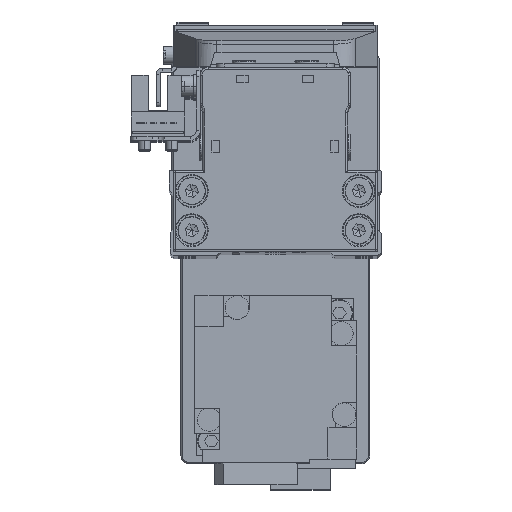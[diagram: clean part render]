
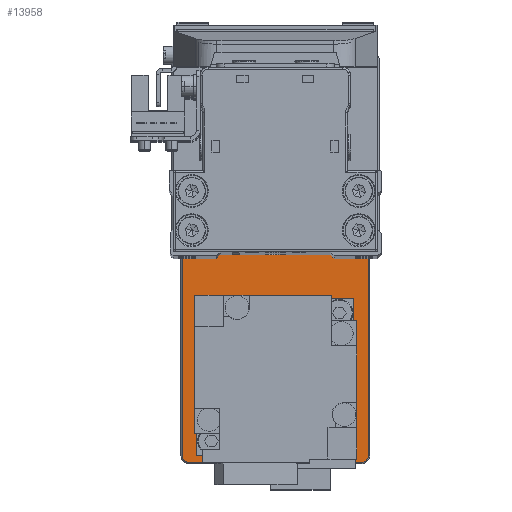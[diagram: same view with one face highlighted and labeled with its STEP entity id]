
A CAD part, top view. The second image highlights one B-rep face of the part: STEP entity #13958.
In plain terms, the highlighted planar face has unit normal (0, 0, 1).
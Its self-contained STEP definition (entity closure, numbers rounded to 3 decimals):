
#154 = DIRECTION ( 'NONE',  ( 0., -1., 0. ) ) ;
#607 = ORIENTED_EDGE ( 'NONE', *, *, #14511, .T. ) ;
#609 = CARTESIAN_POINT ( 'NONE',  ( 30., 0., 5. ) ) ;
#1818 = ORIENTED_EDGE ( 'NONE', *, *, #27113, .T. ) ;
#1832 = VERTEX_POINT ( 'NONE', #9998 ) ;
#2010 = AXIS2_PLACEMENT_3D ( 'NONE', #17793, #30084, #2467 ) ;
#2116 = LINE ( 'NONE', #14419, #25076 ) ;
#2118 = ORIENTED_EDGE ( 'NONE', *, *, #6372, .T. ) ;
#2416 = DIRECTION ( 'NONE',  ( 1., 0., 0. ) ) ;
#2467 = DIRECTION ( 'NONE',  ( 1., 0., 0. ) ) ;
#2521 = DIRECTION ( 'NONE',  ( 0., 0., 1. ) ) ;
#2528 = DIRECTION ( 'NONE',  ( 0., 0., 1. ) ) ;
#3517 = LINE ( 'NONE', #15827, #19399 ) ;
#3628 = CARTESIAN_POINT ( 'NONE',  ( -51.7, 22., 5. ) ) ;
#4135 = LINE ( 'NONE', #16442, #25892 ) ;
#4848 = AXIS2_PLACEMENT_3D ( 'NONE', #609, #12916, #25230 ) ;
#4980 = ORIENTED_EDGE ( 'NONE', *, *, #9841, .T. ) ;
#5489 = PLANE ( 'NONE',  #2010 ) ;
#6024 = VERTEX_POINT ( 'NONE', #20309 ) ;
#6372 = EDGE_CURVE ( 'NONE', #29061, #23745, #2116, .T. ) ;
#8515 = FACE_BOUND ( 'NONE', #25550, .T. ) ;
#8640 = EDGE_CURVE ( 'NONE', #27052, #29061, #30345, .T. ) ;
#8841 = EDGE_LOOP ( 'NONE', ( #1818, #13599, #607, #14148, #2118, #27416, #15172, #15251 ) ) ;
#9663 = EDGE_CURVE ( 'NONE', #34968, #19585, #12796, .T. ) ;
#9701 = DIRECTION ( 'NONE',  ( 1., 0., 0. ) ) ;
#9841 = EDGE_CURVE ( 'NONE', #19788, #1832, #34712, .T. ) ;
#9996 = CARTESIAN_POINT ( 'NONE',  ( -51.7, -22., 5. ) ) ;
#9998 = CARTESIAN_POINT ( 'NONE',  ( -38.3, 0., 5. ) ) ;
#10033 = AXIS2_PLACEMENT_3D ( 'NONE', #17376, #38972, #11325 ) ;
#10526 = DIRECTION ( 'NONE',  ( 0., 0., 1. ) ) ;
#11157 = CARTESIAN_POINT ( 'NONE',  ( 17.2, 0., 5. ) ) ;
#11325 = DIRECTION ( 'NONE',  ( 1., 0., 0. ) ) ;
#11380 = AXIS2_PLACEMENT_3D ( 'NONE', #30151, #2528, #14826 ) ;
#12297 = CARTESIAN_POINT ( 'NONE',  ( 50., 22., 5. ) ) ;
#12796 = CIRCLE ( 'NONE', #35342, 1.7 ) ;
#12916 = DIRECTION ( 'NONE',  ( 0., 0., -1. ) ) ;
#12945 = AXIS2_PLACEMENT_3D ( 'NONE', #25033, #37339, #9701 ) ;
#12975 = AXIS2_PLACEMENT_3D ( 'NONE', #12297, #24606, #36910 ) ;
#13599 = ORIENTED_EDGE ( 'NONE', *, *, #9663, .T. ) ;
#13878 = VERTEX_POINT ( 'NONE', #11157 ) ;
#13958 = ADVANCED_FACE ( 'NONE', ( #8515, #20807, #33127 ), #5489, .T. ) ;
#14148 = ORIENTED_EDGE ( 'NONE', *, *, #8640, .T. ) ;
#14419 = CARTESIAN_POINT ( 'NONE',  ( -50., 23.7, 5. ) ) ;
#14511 = EDGE_CURVE ( 'NONE', #19585, #27052, #4135, .T. ) ;
#14702 = EDGE_LOOP ( 'NONE', ( #4980, #24842 ) ) ;
#14820 = DIRECTION ( 'NONE',  ( 1., 0., 0. ) ) ;
#14826 = DIRECTION ( 'NONE',  ( 1., 0., 0. ) ) ;
#15172 = ORIENTED_EDGE ( 'NONE', *, *, #21498, .T. ) ;
#15251 = ORIENTED_EDGE ( 'NONE', *, *, #28220, .T. ) ;
#15486 = LINE ( 'NONE', #27793, #17118 ) ;
#15827 = CARTESIAN_POINT ( 'NONE',  ( 50., -23.7, 5. ) ) ;
#16167 = VERTEX_POINT ( 'NONE', #35548 ) ;
#16218 = EDGE_CURVE ( 'NONE', #13878, #6024, #27404, .T. ) ;
#16442 = CARTESIAN_POINT ( 'NONE',  ( 51.7, 22., 5. ) ) ;
#16725 = ORIENTED_EDGE ( 'NONE', *, *, #16218, .T. ) ;
#16915 = CARTESIAN_POINT ( 'NONE',  ( 50., -23.7, 5. ) ) ;
#17118 = VECTOR ( 'NONE', #154, 1000. ) ;
#17305 = AXIS2_PLACEMENT_3D ( 'NONE', #17750, #30038, #2416 ) ;
#17354 = CARTESIAN_POINT ( 'NONE',  ( 51.7, -22., 5. ) ) ;
#17376 = CARTESIAN_POINT ( 'NONE',  ( 30., 0., 5. ) ) ;
#17750 = CARTESIAN_POINT ( 'NONE',  ( -28., 0., 5. ) ) ;
#17793 = CARTESIAN_POINT ( 'NONE',  ( 0., 0., 5. ) ) ;
#19399 = VECTOR ( 'NONE', #28126, 1000. ) ;
#19585 = VERTEX_POINT ( 'NONE', #17354 ) ;
#19788 = VERTEX_POINT ( 'NONE', #24815 ) ;
#20309 = CARTESIAN_POINT ( 'NONE',  ( 42.8, 0., 5. ) ) ;
#20807 = FACE_BOUND ( 'NONE', #14702, .T. ) ;
#21032 = EDGE_CURVE ( 'NONE', #6024, #13878, #22242, .T. ) ;
#21498 = EDGE_CURVE ( 'NONE', #29221, #23958, #15486, .T. ) ;
#22049 = AXIS2_PLACEMENT_3D ( 'NONE', #30141, #2521, #14820 ) ;
#22242 = CIRCLE ( 'NONE', #4848, 12.8 ) ;
#22572 = EDGE_CURVE ( 'NONE', #23745, #29221, #28782, .T. ) ;
#22707 = ORIENTED_EDGE ( 'NONE', *, *, #21032, .T. ) ;
#22824 = DIRECTION ( 'NONE',  ( 1., 0., 0. ) ) ;
#23745 = VERTEX_POINT ( 'NONE', #32807 ) ;
#23958 = VERTEX_POINT ( 'NONE', #9996 ) ;
#24003 = CARTESIAN_POINT ( 'NONE',  ( 50., 23.7, 5. ) ) ;
#24606 = DIRECTION ( 'NONE',  ( 0., 0., 1. ) ) ;
#24705 = CARTESIAN_POINT ( 'NONE',  ( 51.7, 22., 5. ) ) ;
#24815 = CARTESIAN_POINT ( 'NONE',  ( -17.7, 0., 5. ) ) ;
#24842 = ORIENTED_EDGE ( 'NONE', *, *, #39253, .T. ) ;
#25033 = CARTESIAN_POINT ( 'NONE',  ( -28., 0., 5. ) ) ;
#25076 = VECTOR ( 'NONE', #26725, 1000. ) ;
#25230 = DIRECTION ( 'NONE',  ( 1., 0., 0. ) ) ;
#25550 = EDGE_LOOP ( 'NONE', ( #22707, #16725 ) ) ;
#25892 = VECTOR ( 'NONE', #28742, 1000. ) ;
#26725 = DIRECTION ( 'NONE',  ( -1., 0., 0. ) ) ;
#27052 = VERTEX_POINT ( 'NONE', #24705 ) ;
#27113 = EDGE_CURVE ( 'NONE', #16167, #34968, #3517, .T. ) ;
#27404 = CIRCLE ( 'NONE', #10033, 12.8 ) ;
#27416 = ORIENTED_EDGE ( 'NONE', *, *, #22572, .T. ) ;
#27793 = CARTESIAN_POINT ( 'NONE',  ( -51.7, -22., 5. ) ) ;
#28126 = DIRECTION ( 'NONE',  ( 1., 0., 0. ) ) ;
#28220 = EDGE_CURVE ( 'NONE', #23958, #16167, #39443, .T. ) ;
#28742 = DIRECTION ( 'NONE',  ( 0., 1., 0. ) ) ;
#28782 = CIRCLE ( 'NONE', #11380, 1.7 ) ;
#29061 = VERTEX_POINT ( 'NONE', #24003 ) ;
#29221 = VERTEX_POINT ( 'NONE', #3628 ) ;
#30038 = DIRECTION ( 'NONE',  ( 0., 0., -1. ) ) ;
#30084 = DIRECTION ( 'NONE',  ( 0., 0., 1. ) ) ;
#30141 = CARTESIAN_POINT ( 'NONE',  ( -50., -22., 5. ) ) ;
#30151 = CARTESIAN_POINT ( 'NONE',  ( -50., 22., 5. ) ) ;
#30318 = CIRCLE ( 'NONE', #12945, 10.3 ) ;
#30345 = CIRCLE ( 'NONE', #12975, 1.7 ) ;
#32807 = CARTESIAN_POINT ( 'NONE',  ( -50., 23.7, 5. ) ) ;
#33127 = FACE_OUTER_BOUND ( 'NONE', #8841, .T. ) ;
#34712 = CIRCLE ( 'NONE', #17305, 10.3 ) ;
#34968 = VERTEX_POINT ( 'NONE', #16915 ) ;
#35342 = AXIS2_PLACEMENT_3D ( 'NONE', #38169, #10526, #22824 ) ;
#35548 = CARTESIAN_POINT ( 'NONE',  ( -50., -23.7, 5. ) ) ;
#36910 = DIRECTION ( 'NONE',  ( 1., 0., 0. ) ) ;
#37339 = DIRECTION ( 'NONE',  ( 0., 0., -1. ) ) ;
#38169 = CARTESIAN_POINT ( 'NONE',  ( 50., -22., 5. ) ) ;
#38972 = DIRECTION ( 'NONE',  ( 0., 0., -1. ) ) ;
#39253 = EDGE_CURVE ( 'NONE', #1832, #19788, #30318, .T. ) ;
#39443 = CIRCLE ( 'NONE', #22049, 1.7 ) ;
